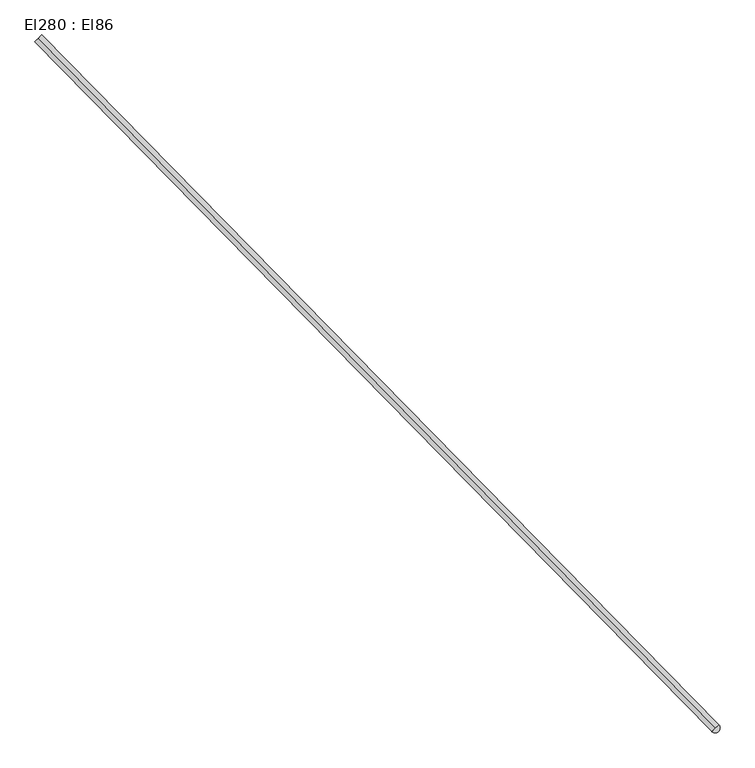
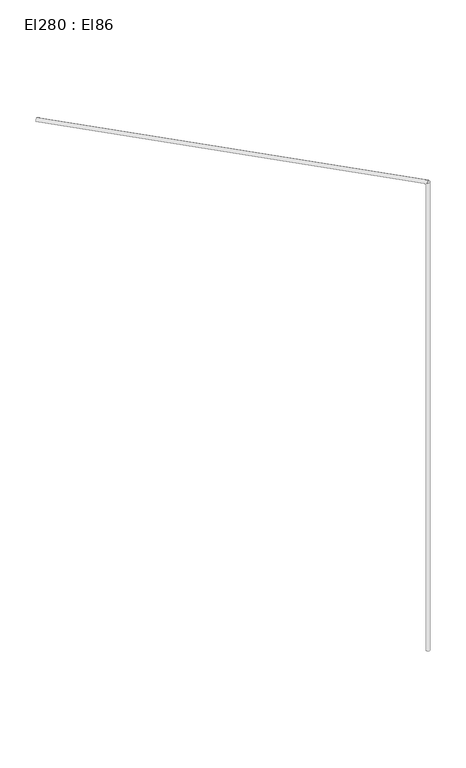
"""IFC4 building model written with IfcOpenShell, lengths in millimetres: cable carrier segment geometry, El280 : El86."""

from ifc_helpers import new_model, si_unit, point, frame, frame_2d, origin, place, context, project, spatial, circle_curve, trimmed, segment, composite_curve, outline, extrude, source, transform, mapped, element, save


def el280_el86_41604c0a(model_context):
    return source(origin(), model_context, "Body", "SweptSolid", [
        extrude(outline(composite_curve([segment(trimmed(circle_curve(frame_2d((25094.4966511, 8750.5091745)), 9.5), [point((25084.9966511, 8750.5091745))], [point((25103.9966511, 8750.5091745))], False, "CARTESIAN"), True, "CONTINUOUS"), segment(trimmed(circle_curve(frame_2d((25094.4966511, 8750.5091745)), 9.5), [point((25103.9966511, 8750.5091745))], [point((25084.9966511, 8750.5091745))], False, "CARTESIAN"), True, "CONTINUOUS")], self_intersect=False)), frame((0.0, 0.0, 1830.0), z_axis=(0.0, 0.0, 1.0), x_axis=(1.0, 0.0, 0.0)), (0.0, 0.0, 1.0), 2620.0),
        extrude(outline(composite_curve([segment(trimmed(circle_curve(frame_2d((0.0, -9.5)), 9.5), [point((0.0, -19.0))], [point((0.0, 0.0))], False, "CARTESIAN"), True, "CONTINUOUS"), segment(trimmed(circle_curve(frame_2d((0.0, -9.5)), 9.5), [point((0.0, 0.0))], [point((0.0, -19.0))], False, "CARTESIAN"), True, "CONTINUOUS")], self_intersect=False)), frame((25094.4958168, 8750.5111801, 4459.5), z_axis=(-0.7004048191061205, 0.7137458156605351, 0.0), x_axis=(-0.7137458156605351, -0.7004048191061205, 0.0)), (0.0, 0.0, 1.0), 1865.44),
    ])


if __name__ == "__main__":
    model = new_model("IFC4")
    model_context = context("Model", 3, world=origin())
    ifc_project = project(units=[si_unit("LENGTHUNIT", "METRE", prefix="MILLI")], contexts=[model_context])
    site = spatial("IfcSite", under=ifc_project)
    building = spatial("IfcBuilding", under=site)
    placement = place(None, origin())
    el280_el86_shape = el280_el86_41604c0a(model_context)
    element("IfcCableCarrierSegment", 1, ObjectType="El280 : El86", at=placement, inside=building, context=model_context, shape_type="MappedRepresentation", body=[
        mapped(el280_el86_shape, transform((0.0, 0.0, 0.0), x_axis=(1.0, 0.0, 0.0), y_axis=(0.0, 1.0, 0.0), z_axis=(0.0, 0.0, 1.0))),
    ])
    save(model, "model.ifc")
